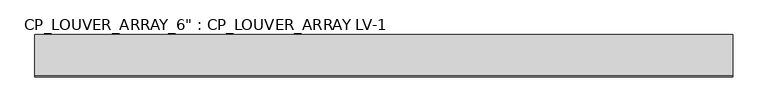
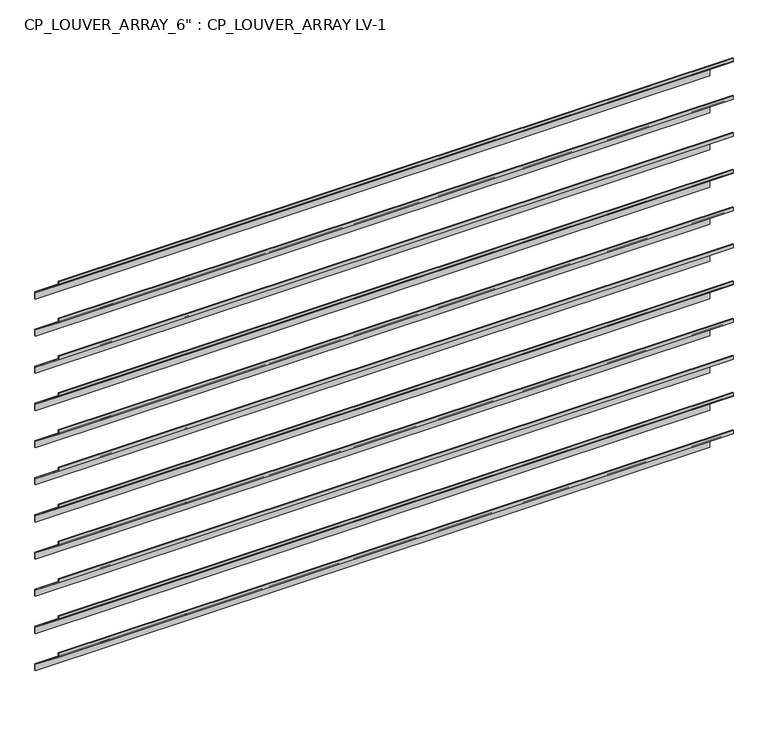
"""IFC4 building model written with IfcOpenShell, lengths in millimetres: plate geometry."""

from ifc_helpers import new_model, si_unit, frame, origin, place, context, project, spatial, polyline, outline, extrude, source, transform, mapped, element, save


def plate_024d4a39(model_context):
    return source(origin(), model_context, "Body", "SweptSolid", [
        extrude(outline(polyline([(10.1207966, 1536.7), (6.9457966, 1536.7), (6.9457966, 1562.6070081), (-148.6292034, 1687.0670081), (-148.6292034, 1701.8), (-145.4542034, 1701.8), (-145.4542034, 1688.5929919), (10.1207966, 1564.1329919), (10.1207966, 1536.7)])), frame((-1308.1, 0.0, 0.0), z_axis=(1.0, 0.0, 0.0), x_axis=(0.0, 1.0, 0.0)), (0.0, 0.0, 1.0), 2616.2),
        extrude(outline(polyline([(10.1207966, 1384.3), (6.9457966, 1384.3), (6.9457966, 1410.2070081), (-148.6292034, 1534.6670081), (-148.6292034, 1549.4), (-145.4542034, 1549.4), (-145.4542034, 1536.1929919), (10.1207966, 1411.7329919), (10.1207966, 1384.3)])), frame((-1308.1, 0.0, 0.0), z_axis=(1.0, 0.0, 0.0), x_axis=(0.0, 1.0, 0.0)), (0.0, 0.0, 1.0), 2616.2),
        extrude(outline(polyline([(10.1207966, 1231.9), (6.9457966, 1231.9), (6.9457966, 1257.8070081), (-148.6292034, 1382.2670081), (-148.6292034, 1397.0), (-145.4542034, 1397.0), (-145.4542034, 1383.7929919), (10.1207966, 1259.3329919), (10.1207966, 1231.9)])), frame((-1308.1, 0.0, 0.0), z_axis=(1.0, 0.0, 0.0), x_axis=(0.0, 1.0, 0.0)), (0.0, 0.0, 1.0), 2616.2),
        extrude(outline(polyline([(10.1207966, 1079.5), (6.9457966, 1079.5), (6.9457966, 1105.4070081), (-148.6292034, 1229.8670081), (-148.6292034, 1244.6), (-145.4542034, 1244.6), (-145.4542034, 1231.3929919), (10.1207966, 1106.9329919), (10.1207966, 1079.5)])), frame((-1308.1, 0.0, 0.0), z_axis=(1.0, 0.0, 0.0), x_axis=(0.0, 1.0, 0.0)), (0.0, 0.0, 1.0), 2616.2),
        extrude(outline(polyline([(10.1207966, 927.1), (6.9457966, 927.1), (6.9457966, 953.0070081), (-148.6292034, 1077.4670081), (-148.6292034, 1092.2), (-145.4542034, 1092.2), (-145.4542034, 1078.9929919), (10.1207966, 954.5329919), (10.1207966, 927.1)])), frame((-1308.1, 0.0, 0.0), z_axis=(1.0, 0.0, 0.0), x_axis=(0.0, 1.0, 0.0)), (0.0, 0.0, 1.0), 2616.2),
        extrude(outline(polyline([(10.1207966, 774.7), (6.9457966, 774.7), (6.9457966, 800.6070081), (-148.6292034, 925.0670081), (-148.6292034, 939.8), (-145.4542034, 939.8), (-145.4542034, 926.5929919), (10.1207966, 802.1329919), (10.1207966, 774.7)])), frame((-1308.1, 0.0, 0.0), z_axis=(1.0, 0.0, 0.0), x_axis=(0.0, 1.0, 0.0)), (0.0, 0.0, 1.0), 2616.2),
        extrude(outline(polyline([(10.1207966, 622.3), (6.9457966, 622.3), (6.9457966, 648.2070081), (-148.6292034, 772.6670081), (-148.6292034, 787.4), (-145.4542034, 787.4), (-145.4542034, 774.1929919), (10.1207966, 649.7329919), (10.1207966, 622.3)])), frame((-1308.1, 0.0, 0.0), z_axis=(1.0, 0.0, 0.0), x_axis=(0.0, 1.0, 0.0)), (0.0, 0.0, 1.0), 2616.2),
        extrude(outline(polyline([(10.1207966, 469.9), (6.9457966, 469.9), (6.9457966, 495.8070081), (-148.6292034, 620.2670081), (-148.6292034, 635.0), (-145.4542034, 635.0), (-145.4542034, 621.7929919), (10.1207966, 497.3329919), (10.1207966, 469.9)])), frame((-1308.1, 0.0, 0.0), z_axis=(1.0, 0.0, 0.0), x_axis=(0.0, 1.0, 0.0)), (0.0, 0.0, 1.0), 2616.2),
        extrude(outline(polyline([(10.1207966, 317.5), (6.9457966, 317.5), (6.9457966, 343.4070081), (-148.6292034, 467.8670081), (-148.6292034, 482.6), (-145.4542034, 482.6), (-145.4542034, 469.3929919), (10.1207966, 344.9329919), (10.1207966, 317.5)])), frame((-1308.1, 0.0, 0.0), z_axis=(1.0, 0.0, 0.0), x_axis=(0.0, 1.0, 0.0)), (0.0, 0.0, 1.0), 2616.2),
        extrude(outline(polyline([(10.1207966, 165.1), (6.9457966, 165.1), (6.9457966, 191.0070081), (-148.6292034, 315.4670081), (-148.6292034, 330.2), (-145.4542034, 330.2), (-145.4542034, 316.9929919), (10.1207966, 192.5329919), (10.1207966, 165.1)])), frame((-1308.1, 0.0, 0.0), z_axis=(1.0, 0.0, 0.0), x_axis=(0.0, 1.0, 0.0)), (0.0, 0.0, 1.0), 2616.2),
        extrude(outline(polyline([(10.1207966, 12.7), (6.9457966, 12.7), (6.9457966, 38.6070081), (-148.6292034, 163.0670081), (-148.6292034, 177.8), (-145.4542034, 177.8), (-145.4542034, 164.5929919), (10.1207966, 40.1329919), (10.1207966, 12.7)])), frame((-1308.1, 0.0, 0.0), z_axis=(1.0, 0.0, 0.0), x_axis=(0.0, 1.0, 0.0)), (0.0, 0.0, 1.0), 2616.2),
    ])


if __name__ == "__main__":
    model = new_model("IFC4")
    model_context = context("Model", 3, world=origin())
    ifc_project = project(units=[si_unit("LENGTHUNIT", "METRE", prefix="MILLI")], contexts=[model_context])
    site = spatial("IfcSite", under=ifc_project)
    building = spatial("IfcBuilding", under=site)
    placement = place(None, origin())
    plate_shape = plate_024d4a39(model_context)
    element("IfcPlate", 1, ObjectType="CP_LOUVER_ARRAY_6\" : CP_LOUVER_ARRAY LV-1", at=placement, inside=building, context=model_context, shape_type="MappedRepresentation", body=[
        mapped(plate_shape, transform((0.0, 0.0, 0.0), x_axis=(1.0, 0.0, 0.0), y_axis=(0.0, 1.0, 0.0), z_axis=(0.0, 0.0, 1.0))),
    ])
    save(model, "model.ifc")
